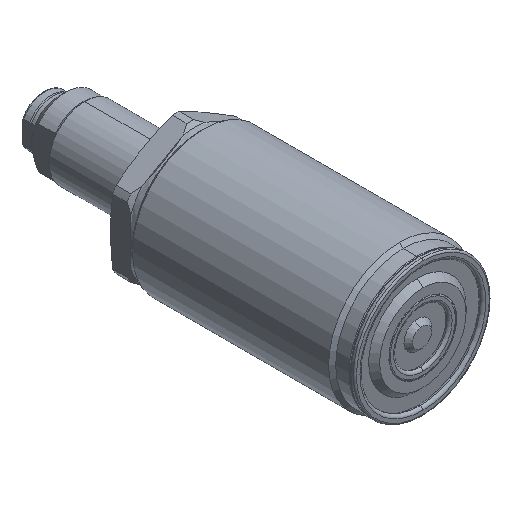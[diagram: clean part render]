
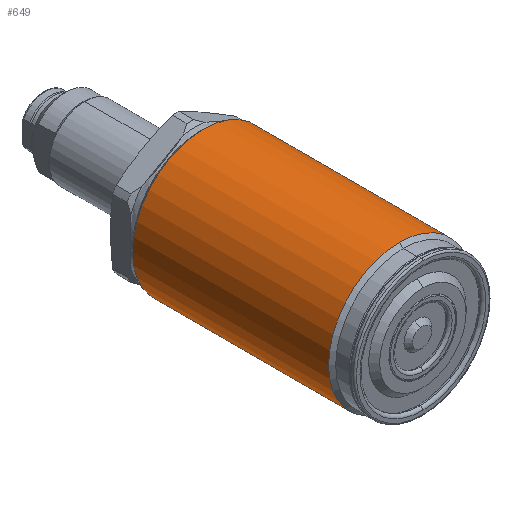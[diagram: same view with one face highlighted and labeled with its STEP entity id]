
A CAD part, isometric view. The second image highlights one B-rep face of the part: STEP entity #649.
In plain terms, the highlighted cylindrical face has radius 18 mm (diameter 36 mm), a full revolution.
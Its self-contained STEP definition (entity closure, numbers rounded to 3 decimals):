
#319=FACE_BOUND('',#965,.T.);
#320=FACE_BOUND('',#966,.T.);
#370=CYLINDRICAL_SURFACE('',#2592,18.);
#441=LINE('',#4211,#524);
#442=LINE('',#4216,#525);
#524=VECTOR('',#3255,1.);
#525=VECTOR('',#3258,1.);
#649=ADVANCED_FACE('',(#319,#320),#370,.T.);
#965=EDGE_LOOP('',(#1476));
#966=EDGE_LOOP('',(#1477,#1478,#1479,#1480,#1481,#1482));
#1476=ORIENTED_EDGE('',*,*,#2087,.T.);
#1477=ORIENTED_EDGE('',*,*,#2088,.T.);
#1478=ORIENTED_EDGE('',*,*,#2088,.F.);
#1479=ORIENTED_EDGE('',*,*,#2089,.F.);
#1480=ORIENTED_EDGE('',*,*,#2090,.T.);
#1481=ORIENTED_EDGE('',*,*,#2090,.F.);
#1482=ORIENTED_EDGE('',*,*,#2091,.F.);
#1803=VERTEX_POINT('',#4210);
#1804=VERTEX_POINT('',#4212);
#1805=VERTEX_POINT('',#4213);
#1806=VERTEX_POINT('',#4215);
#1807=VERTEX_POINT('',#4217);
#2087=EDGE_CURVE('',#1803,#1803,#2298,.T.);
#2088=EDGE_CURVE('',#1804,#1805,#441,.T.);
#2089=EDGE_CURVE('',#1806,#1804,#2299,.T.);
#2090=EDGE_CURVE('',#1806,#1807,#442,.T.);
#2091=EDGE_CURVE('',#1804,#1806,#2300,.T.);
#2298=CIRCLE('',#2589,18.);
#2299=CIRCLE('',#2590,18.);
#2300=CIRCLE('',#2591,18.);
#2589=AXIS2_PLACEMENT_3D('',#4209,#3253,#3254);
#2590=AXIS2_PLACEMENT_3D('',#4214,#3256,#3257);
#2591=AXIS2_PLACEMENT_3D('',#4218,#3259,#3260);
#2592=AXIS2_PLACEMENT_3D('',#4219,#3261,#3262);
#3253=DIRECTION('',(0.,-1.,0.));
#3254=DIRECTION('',(0.,0.,-1.));
#3255=DIRECTION('',(0.,1.,0.));
#3256=DIRECTION('',(0.,-1.,0.));
#3257=DIRECTION('',(0.,0.,-1.));
#3258=DIRECTION('',(0.,1.,0.));
#3259=DIRECTION('',(0.,-1.,0.));
#3260=DIRECTION('',(0.,0.,-1.));
#3261=DIRECTION('',(0.,-1.,0.));
#3262=DIRECTION('',(0.,0.,-1.));
#4209=CARTESIAN_POINT('',(0.,54.3,0.));
#4210=CARTESIAN_POINT('',(0.,54.3,-18.));
#4211=CARTESIAN_POINT('',(0.,0.,18.));
#4212=CARTESIAN_POINT('',(0.,4.6,18.));
#4213=CARTESIAN_POINT('',(0.,49.058,18.));
#4214=CARTESIAN_POINT('',(0.,4.6,0.));
#4215=CARTESIAN_POINT('',(0.,4.6,-18.));
#4216=CARTESIAN_POINT('',(0.,0.,-18.));
#4217=CARTESIAN_POINT('',(0.,49.058,-18.));
#4218=CARTESIAN_POINT('',(0.,4.6,0.));
#4219=CARTESIAN_POINT('',(0.,0.,0.));
